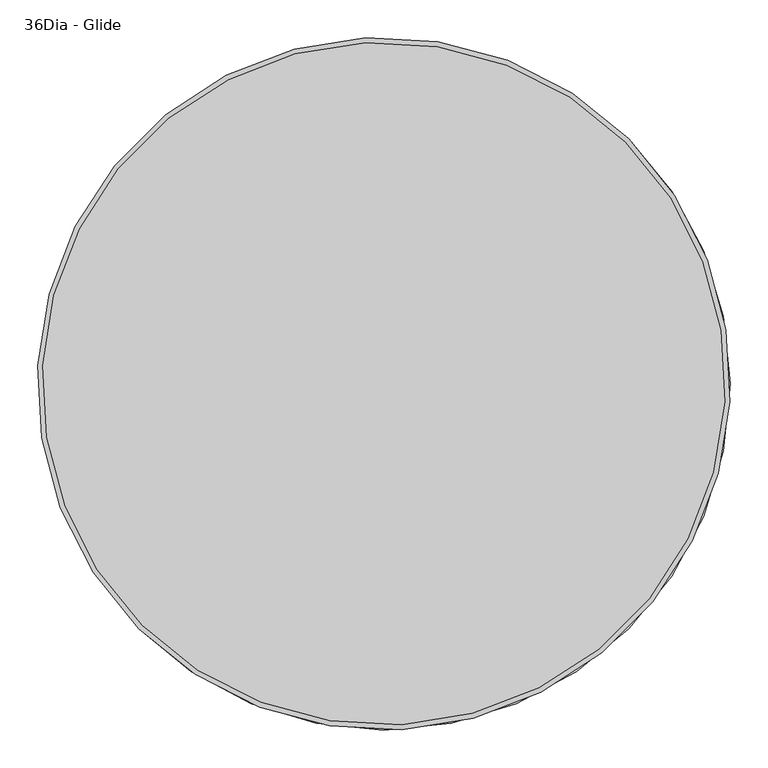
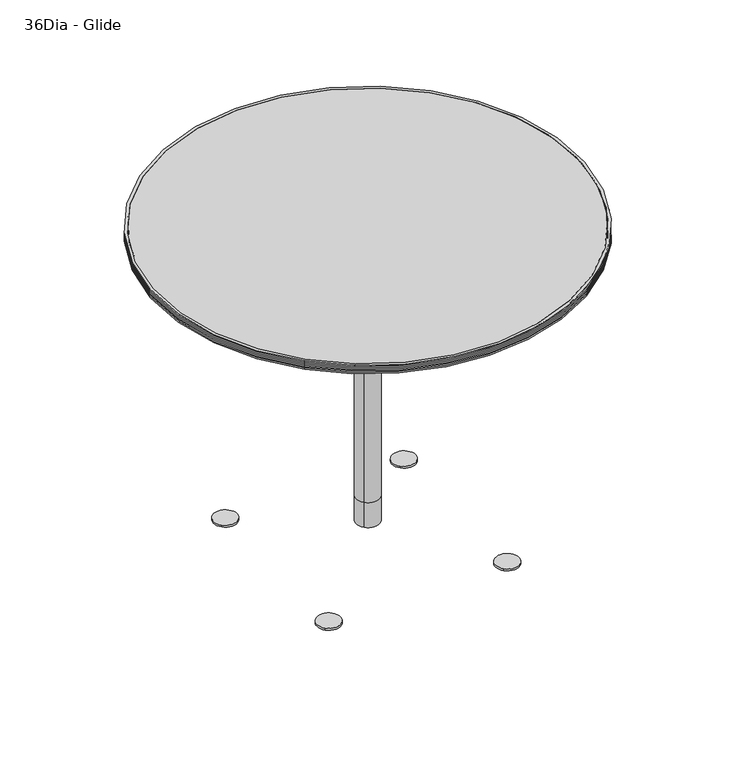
"""IFC4 building model written with IfcOpenShell, lengths in millimetres: furniture geometry, Coalesse_AM_Table_Conference_Ballet_Table_Round : 36Dia - Glide."""

import ifcopenshell
import ifcopenshell.guid

model = None  # the IFC model being written
_history = None  # IfcOwnerHistory: only IFC2X3 demands one
_inside = {}  # id of a spatial element -> (the spatial element, [elements in it])
_under = {}  # id of a project, library or spatial element -> (it, [spatial elements below it])
_declared = {}  # id of a project -> (the project, [libraries it declares])
_typed = {}  # id of a type object -> (the type object, [elements of that type])
_made_of = {}  # id of a material, layer set ... -> (it, [elements and type objects made of it])


def new_model(schema):
    """Start an empty IFC model of exactly this schema.

    Asked for "IFC4X3", IfcOpenShell would pick the latest addendum, in which some entities
    have other attributes; the version numbers below select the first issue.
    IFC2X3 requires an IfcOwnerHistory on every rooted entity: one is made here for all.
    """
    global model, _history
    if schema == "IFC4X3":
        model = ifcopenshell.file(schema_version=(4, 3, 0, 0))
    else:
        model = ifcopenshell.file(schema=schema)
    _inside.clear()
    _under.clear()
    _declared.clear()
    _typed.clear()
    _made_of.clear()
    _history = None
    if model.schema == "IFC2X3":
        org = make("IfcOrganization", Name="unknown")
        user = make(
            "IfcPersonAndOrganization",
            ThePerson=make("IfcPerson", FamilyName="unknown"),
            TheOrganization=org,
        )
        app = make(
            "IfcApplication",
            ApplicationDeveloper=org,
            Version="unknown",
            ApplicationFullName="unknown",
            ApplicationIdentifier="unknown",
        )
        _history = make(
            "IfcOwnerHistory",
            OwningUser=user,
            OwningApplication=app,
            ChangeAction="ADDED",
            CreationDate=0,
        )
    return model


def make(cls, **values):
    """One entity of the class cls with the attributes given. An attribute that is None is left unset."""
    return model.create_entity(
        cls, **{name: value for name, value in values.items() if value is not None}
    )


def rooted(cls, **values):
    """An entity with a GlobalId (a new one), such as an element, a storey or a relation."""
    return make(cls, GlobalId=ifcopenshell.guid.new(), OwnerHistory=_history, **values)


def si_unit(unit_type, name, prefix=None):
    """IfcSIUnit, for example si_unit("LENGTHUNIT", "METRE", prefix="MILLI")."""
    return make("IfcSIUnit", UnitType=unit_type, Prefix=prefix, Name=name)


def assignment(units):
    """IfcUnitAssignment: the units of a project."""
    return None if units is None else make("IfcUnitAssignment", Units=units)


def point(xyz):
    """IfcCartesianPoint."""
    return None if xyz is None else make("IfcCartesianPoint", Coordinates=xyz)


def direction(xyz):
    """IfcDirection."""
    return None if xyz is None else make("IfcDirection", DirectionRatios=xyz)


def frame(location, z_axis=None, x_axis=None):
    """IfcAxis2Placement3D, a coordinate frame: its origin and axes. An axis left out is left unset."""
    return make(
        "IfcAxis2Placement3D",
        Location=point(location),
        Axis=direction(z_axis),
        RefDirection=direction(x_axis),
    )


def frame_2d(location, x_axis=None):
    """IfcAxis2Placement2D, a coordinate frame in the plane: its origin and x axis."""
    return make(
        "IfcAxis2Placement2D", Location=point(location), RefDirection=direction(x_axis)
    )


def origin():
    """The frame at (0, 0, 0) with its axes left unset."""
    return frame((0.0, 0.0, 0.0))


def origin_with_axes():
    """The frame at (0, 0, 0) with the z axis (0, 0, 1) and the x axis (1, 0, 0) written out."""
    return frame((0.0, 0.0, 0.0), z_axis=(0.0, 0.0, 1.0), x_axis=(1.0, 0.0, 0.0))


def origin_2d():
    """The frame at (0, 0) in the plane with its x axis left unset."""
    return frame_2d((0.0, 0.0))


def place(relative_to, where):
    """IfcLocalPlacement: puts the frame where relative to a parent placement (None: the world)."""
    return make(
        "IfcLocalPlacement", PlacementRelTo=relative_to, RelativePlacement=where
    )


def context(
    kind, dimensions, precision=None, world=None, true_north=None, identifier=None
):
    """IfcGeometricRepresentationContext, for example the 3D "Model" context."""
    return make(
        "IfcGeometricRepresentationContext",
        ContextIdentifier=identifier,
        ContextType=kind,
        CoordinateSpaceDimension=dimensions,
        Precision=precision,
        WorldCoordinateSystem=world,
        TrueNorth=true_north,
    )


def project(units=None, contexts=None):
    """IfcProject with its units and contexts."""
    return rooted(
        "IfcProject",
        Name="project",
        RepresentationContexts=contexts,
        UnitsInContext=assignment(units),
    )


def spatial(cls, under=None, at=None, **own):
    """A site, building, storey or space (cls), placed at a placement, below another one or the project."""
    s = rooted(cls, ObjectPlacement=at, **own)
    if under is not None:
        _under.setdefault(under.id(), (under, []))[1].append(s)
    return s


def polyline(points):
    """IfcPolyline through the points."""
    return make("IfcPolyline", Points=[point(p) for p in points])


def circle_curve(where, radius):
    """IfcCircle in the frame where."""
    return make("IfcCircle", Position=where, Radius=radius)


def trimmed(basis, trim1, trim2, sense, master):
    """IfcTrimmedCurve: the piece of a basis curve between two trims."""
    return make(
        "IfcTrimmedCurve",
        BasisCurve=basis,
        Trim1=trim1,
        Trim2=trim2,
        SenseAgreement=sense,
        MasterRepresentation=master,
    )


def segment(curve, same_sense, transition):
    """IfcCompositeCurveSegment."""
    return make(
        "IfcCompositeCurveSegment",
        Transition=transition,
        SameSense=same_sense,
        ParentCurve=curve,
    )


def composite_curve(segments, self_intersect=None):
    """IfcCompositeCurve: segments joined end to end."""
    return make("IfcCompositeCurve", Segments=segments, SelfIntersect=self_intersect)


def outline(outer, holes=None, kind="AREA"):
    """IfcArbitraryClosedProfileDef: a profile drawn as a closed curve; with holes, ...WithVoids."""
    if holes is None:
        return make("IfcArbitraryClosedProfileDef", ProfileType=kind, OuterCurve=outer)
    return make(
        "IfcArbitraryProfileDefWithVoids",
        ProfileType=kind,
        OuterCurve=outer,
        InnerCurves=holes,
    )


def extrude(swept, where, along, depth):
    """IfcExtrudedAreaSolid: the profile swept, set in the frame where, extruded along a direction by depth."""
    return make(
        "IfcExtrudedAreaSolid",
        SweptArea=swept,
        Position=where,
        ExtrudedDirection=direction(along),
        Depth=depth,
    )


def shape(context_of_items, identifier, shape_type, items):
    """IfcShapeRepresentation: the items that make up one representation, for example the "Body"."""
    return make(
        "IfcShapeRepresentation",
        ContextOfItems=context_of_items,
        RepresentationIdentifier=identifier,
        RepresentationType=shape_type,
        Items=items,
    )


def source(mapping_origin, context_of_items, identifier, shape_type, items):
    """IfcRepresentationMap: a shape defined once, which mapped items show again and again."""
    return make(
        "IfcRepresentationMap",
        MappingOrigin=mapping_origin,
        MappedRepresentation=shape(context_of_items, identifier, shape_type, items),
    )


def transform(
    local_origin,
    x_axis=None,
    y_axis=None,
    z_axis=None,
    scale=None,
    scale2=None,
    scale3=None,
    uniform=True,
):
    """IfcCartesianTransformationOperator3D, or its non-uniform kind. x_axis, y_axis, z_axis: its Axis1, 2, 3."""
    if uniform:
        return make(
            "IfcCartesianTransformationOperator3D",
            Axis1=direction(x_axis),
            Axis2=direction(y_axis),
            LocalOrigin=point(local_origin),
            Scale=scale,
            Axis3=direction(z_axis),
        )
    return make(
        "IfcCartesianTransformationOperator3DnonUniform",
        Axis1=direction(x_axis),
        Axis2=direction(y_axis),
        LocalOrigin=point(local_origin),
        Scale=scale,
        Axis3=direction(z_axis),
        Scale2=scale2,
        Scale3=scale3,
    )


def mapped(mapping_source, mapping_target):
    """IfcMappedItem: shows the shape of a source again, moved by a transform."""
    return make(
        "IfcMappedItem", MappingSource=mapping_source, MappingTarget=mapping_target
    )


def made_of(thing, what):
    """Note that an element or type object is made of a material, layer set ...; save() writes the relation."""
    if what is not None:
        _made_of.setdefault(what.id(), (what, []))[1].append(thing)
    return thing


def element(
    cls,
    number,
    at=None,
    inside=None,
    cuts=None,
    type_object=None,
    material=None,
    context=None,
    identifier="Body",
    shape_type=None,
    held_by="IfcProductDefinitionShape",
    body=None,
    shapes=None,
    **own,
):
    """One element of the class cls, such as IfcWall. Its Tag is "e" and its number.

    at: its placement. inside: the storey or other place that contains it. cuts: it is an
    opening in that element (IfcRelVoidsElement). A single representation is given by context,
    identifier, shape_type and body (its items); several are given by shapes. held_by: the class
    of the entity that holds the representations. save() writes the other relations.
    """
    e = rooted(cls, Tag="e%d" % number, ObjectPlacement=at, **own)
    if body is not None:
        shapes = [shape(context, identifier, shape_type, body)]
    if shapes is not None:
        e.Representation = make(held_by, Representations=shapes)
    if inside is not None:
        _inside.setdefault(inside.id(), (inside, []))[1].append(e)
    if cuts is not None:
        rooted(
            "IfcRelVoidsElement", RelatingBuildingElement=cuts, RelatedOpeningElement=e
        )
    if type_object is not None:
        _typed.setdefault(type_object.id(), (type_object, []))[1].append(e)
    return made_of(e, material)


def aggregate(whole, parts):
    """IfcRelAggregates: a whole, such as a stair, and the parts it consists of."""
    return rooted("IfcRelAggregates", RelatingObject=whole, RelatedObjects=parts)


def save(model, path):
    """Write the relations noted so far, then the file.

    IfcRelAggregates (storeys below a building ...), IfcRelContainedInSpatialStructure (elements
    in a storey), IfcRelDefinesByType, IfcRelAssociatesMaterial and IfcRelDeclares: one each for
    every whole, place, type object, material and project.
    """
    for whole, parts in _under.values():
        aggregate(whole, parts)
    for where, things in _inside.values():
        rooted(
            "IfcRelContainedInSpatialStructure",
            RelatedElements=things,
            RelatingStructure=where,
        )
    for kind, things in _typed.values():
        rooted("IfcRelDefinesByType", RelatedObjects=things, RelatingType=kind)
    for what, things in _made_of.values():
        rooted("IfcRelAssociatesMaterial", RelatedObjects=things, RelatingMaterial=what)
    for by, libraries in _declared.values():
        rooted("IfcRelDeclares", RelatingContext=by, RelatedDefinitions=libraries)
    model.write(path)


def plane_surface(at):
    """IfcPlane: the flat surface through the origin of the frame at, square to its z axis."""
    return make("IfcPlane", Position=at)


def cylinder_surface(at, radius):
    """IfcCylindricalSurface: all points at the distance radius from the z axis of the frame at."""
    return make("IfcCylindricalSurface", Position=at, Radius=radius)


def revolved_surface(curve, axis_point, axis_direction):
    """IfcSurfaceOfRevolution: the curve turned about the line through axis_point along axis_direction."""
    return make(
        "IfcSurfaceOfRevolution",
        SweptCurve=make("IfcArbitraryOpenProfileDef", ProfileType="CURVE", Curve=curve),
        AxisPosition=make("IfcAxis1Placement", Location=point(axis_point), Axis=direction(axis_direction)),
    )


def advanced_brep(points, edges, surfaces, faces):
    """IfcAdvancedBrep: a solid bounded by faces that lie on surfaces and meet in shared edges.

    An edge is (start, end): straight between two places in points (the first is 0);
    or (start, end, curve); or (start, end, curve, False) where it runs against its curve.
    A face is (place in surfaces, loops), or (place, loops, False) where it looks against
    its surface's normal. A loop lists edges by number (the first is 1), with a minus sign
    where the edge is run from its end to its start. The first loop is the outer one.
    """
    corners = [point(p) for p in points]
    vertices = [make("IfcVertexPoint", VertexGeometry=c) for c in corners]
    made = []
    for start, end, *more in edges:
        made.append(
            make(
                "IfcEdgeCurve",
                EdgeStart=vertices[start],
                EdgeEnd=vertices[end],
                EdgeGeometry=more[0] if more else make("IfcPolyline", Points=[corners[start], corners[end]]),
                SameSense=more[1] if len(more) > 1 else True,
            )
        )
    hull = []
    for where, loops, *sense in faces:
        bounds = []
        for j, loop in enumerate(loops):
            ring = [make("IfcOrientedEdge", EdgeElement=made[abs(k) - 1], Orientation=k > 0) for k in loop]
            bounds.append(
                make(
                    "IfcFaceOuterBound" if j == 0 else "IfcFaceBound",
                    Bound=make("IfcEdgeLoop", EdgeList=ring),
                    Orientation=True,
                )
            )
        hull.append(make("IfcAdvancedFace", Bounds=bounds, FaceSurface=surfaces[where], SameSense=sense[0] if sense else True))
    return make("IfcAdvancedBrep", Outer=make("IfcClosedShell", CfsFaces=hull))


def furniture_36dia_glide_d5f281bf(model_context):
    return source(origin(), model_context, "Body", "SolidModel", [
        advanced_brep(
        [(-81.1409418, 49.3084633, 657.9865814), (-82.3248918, -51.014078, 657.9865814), (-51.0893198, -82.2496499, 657.9865814), (50.5881651, -81.8989789, 657.9865814), (81.7629451, -50.7241989, 657.9865814), (81.1309866, 49.8201728, 657.9865814), (49.871233, 81.0799264, 657.9865814), (-49.5692956, 80.8801095, 657.9865814), (-81.1409418, 49.3084633, 635.3095602), (-49.5692956, 80.8801095, 635.3095602), (49.871233, 81.0799264, 635.3095602), (81.1309866, 49.8201728, 635.3095602), (81.7629451, -50.7241989, 635.3095602), (50.5881651, -81.8989789, 635.3095602), (-51.0893198, -82.2496499, 635.3095602), (-82.3248918, -51.014078, 635.3095602), (-37.2834365, 26.9246599, 635.3095602), (-37.2834365, -26.9568769, 635.3095602), (-26.8661847, -37.3741286, 635.3095602), (27.015352, -37.3741286, 635.3095602), (38.9313594, -25.4581212, 635.3095602), (38.9313594, 25.4259042, 635.3095602), (27.015352, 37.3419116, 635.3095602), (-26.8661847, 37.3419116, 635.3095602), (-37.2834365, 26.9246599, 607.6784119), (-26.8661847, 37.3419116, 607.6784119), (27.015352, 37.3419116, 607.6784119), (38.9313594, 25.4259042, 607.6784119), (38.9313594, -25.4581212, 607.6784119), (27.015352, -37.3741286, 607.6784119), (-26.8661847, -37.3741286, 607.6784119), (-37.2834365, -26.9568769, 607.6784119)],
        [
            (0, 1, circle_curve(frame((-153.9959305, 0.0, 657.9865814), z_axis=(0.0, 0.0, -1.0), x_axis=(1.0, 0.0, 0.0)), 87.9725749)),
            (1, 2),
            (2, 3, circle_curve(frame((0.0, -154.7295322, 657.9865814), z_axis=(0.0, 0.0, -1.0), x_axis=(1.0, 0.0, 0.0)), 88.6761069)),
            (3, 4),
            (4, 5, circle_curve(frame((153.3620811, 0.0, 657.9865814), z_axis=(0.0, 0.0, -1.0), x_axis=(1.0, 0.0, 0.0)), 87.7461145)),
            (5, 6),
            (6, 7, circle_curve(frame((0.0, 156.1108358, 657.9865814), z_axis=(0.0, 0.0, -1.0), x_axis=(1.0, 0.0, 0.0)), 90.0931587)),
            (7, 0),
            (8, 9),
            (9, 10, circle_curve(frame((0.0, 156.1108358, 635.3095602), z_axis=(0.0, 0.0, 1.0), x_axis=(1.0, 0.0, 0.0)), 90.0931587)),
            (10, 11),
            (11, 12, circle_curve(frame((153.3620811, 0.0, 635.3095602), z_axis=(0.0, 0.0, 1.0), x_axis=(1.0, 0.0, 0.0)), 87.7461145)),
            (12, 13),
            (13, 14, circle_curve(frame((0.0, -154.7295322, 635.3095602), z_axis=(0.0, 0.0, 1.0), x_axis=(1.0, 0.0, 0.0)), 88.6761069)),
            (14, 15),
            (15, 8, circle_curve(frame((-153.9959305, 0.0, 635.3095602), z_axis=(0.0, 0.0, 1.0), x_axis=(1.0, 0.0, 0.0)), 87.9725749)),
            (16, 17, circle_curve(frame((-10.3426681, -0.0161085, 635.3095602), z_axis=(0.0, 0.0, 1.0), x_axis=(1.0, 0.0, 0.0)), 38.1)),
            (17, 18),
            (18, 19, circle_curve(frame((0.0745836, -10.4333602, 635.3095602), z_axis=(0.0, 0.0, 1.0), x_axis=(1.0, 0.0, 0.0)), 38.1)),
            (19, 20),
            (20, 21, circle_curve(frame((13.4893466, -0.0161085, 635.3095602), z_axis=(0.0, 0.0, 1.0), x_axis=(1.0, 0.0, 0.0)), 35.9804395)),
            (21, 22),
            (22, 23, circle_curve(frame((0.0745836, 10.4011432, 635.3095602), z_axis=(0.0, 0.0, 1.0), x_axis=(1.0, 0.0, 0.0)), 38.1)),
            (23, 16),
            (0, 8),
            (15, 1),
            (14, 2),
            (13, 3),
            (12, 4),
            (11, 5),
            (10, 6),
            (9, 7),
            (24, 25),
            (25, 26, circle_curve(frame((0.0745836, 10.4011432, 607.6784119), z_axis=(0.0, 0.0, -1.0), x_axis=(1.0, 0.0, 0.0)), 38.1)),
            (26, 27),
            (27, 28, circle_curve(frame((13.4893466, -0.0161085, 607.6784119), z_axis=(0.0, 0.0, -1.0), x_axis=(1.0, 0.0, 0.0)), 35.9804395)),
            (28, 29),
            (29, 30, circle_curve(frame((0.0745836, -10.4333602, 607.6784119), z_axis=(0.0, 0.0, -1.0), x_axis=(1.0, 0.0, 0.0)), 38.1)),
            (30, 31),
            (31, 24, circle_curve(frame((-10.3426681, -0.0161085, 607.6784119), z_axis=(0.0, 0.0, -1.0), x_axis=(1.0, 0.0, 0.0)), 38.1)),
            (31, 17),
            (16, 24),
            (30, 18),
            (29, 19),
            (28, 20),
            (27, 21),
            (26, 22),
            (25, 23),
        ],
        [
            plane_surface(frame((-66.0233556, 0.0, 657.9865814), z_axis=(0.0, 0.0, 1.0), x_axis=(0.0, -1.0, 0.0))),
            plane_surface(frame((-66.0233556, 0.0, 635.3095602), z_axis=(0.0, 0.0, -1.0), x_axis=(0.0, 1.0, 0.0))),
            revolved_surface(polyline([(-66.02335559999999, 0.0, 635.3095602), (-66.02335559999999, 0.0, 657.9865814)]), (-153.9959305, 0.0, 635.3095602), (0.0, 0.0, -1.0)),
            plane_surface(frame((-82.3248918, -51.014078, 657.9865814), z_axis=(-0.7071067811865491, -0.7071067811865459, 0.0), x_axis=(0.0, 0.0, -1.0))),
            revolved_surface(polyline([(88.6761069, -154.7295322, 635.3095602), (88.6761069, -154.7295322, 657.9865814)]), (0.0, -154.7295322, 635.3095602), (0.0, 0.0, -1.0)),
            plane_surface(frame((50.5881651, -81.8989789, 657.9865814), z_axis=(0.7071067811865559, -0.7071067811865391, 0.0), x_axis=(0.0, 0.0, -1.0))),
            revolved_surface(polyline([(241.10819560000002, 0.0, 635.3095602), (241.10819560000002, 0.0, 657.9865814)]), (153.3620811, 0.0, 635.3095602), (0.0, 0.0, -1.0)),
            plane_surface(frame((81.1309866, 49.8201728, 657.9865814), z_axis=(0.7071067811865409, 0.7071067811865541, 0.0), x_axis=(0.0, 0.0, -1.0))),
            revolved_surface(polyline([(90.0931587, 156.1108358, 635.3095602), (90.0931587, 156.1108358, 657.9865814)]), (0.0, 156.1108358, 635.3095602), (0.0, 0.0, -1.0)),
            plane_surface(frame((-49.5692956, 80.8801095, 657.9865814), z_axis=(-0.7071067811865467, 0.7071067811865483, 0.0), x_axis=(0.0, 0.0, -1.0))),
            plane_surface(frame((27.7573319, -0.0161085, 607.6784119), z_axis=(0.0, 0.0, -1.0), x_axis=(0.0, -1.0, 0.0))),
            cylinder_surface(frame((-10.3426681, -0.0161085, 607.6784119), z_axis=(0.0, 0.0, 1.0), x_axis=(1.0, 0.0, 0.0)), 38.1),
            plane_surface(frame((-37.2834365, -26.9568769, 657.9865814), z_axis=(-0.7071067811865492, -0.7071067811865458, 0.0), x_axis=(0.0, 0.0, -1.0))),
            cylinder_surface(frame((0.0745836, -10.4333602, 607.6784119), z_axis=(0.0, 0.0, 1.0), x_axis=(1.0, 0.0, 0.0)), 38.1),
            plane_surface(frame((27.015352, -37.3741286, 657.9865814), z_axis=(0.707106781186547, -0.707106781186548, 0.0), x_axis=(0.0, 0.0, -1.0))),
            cylinder_surface(frame((13.4893466, -0.0161085, 607.6784119), z_axis=(0.0, 0.0, 1.0), x_axis=(1.0, 0.0, 0.0)), 35.9804395),
            plane_surface(frame((38.9313594, 25.4259042, 657.9865814), z_axis=(0.7071067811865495, 0.7071067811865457, 0.0), x_axis=(0.0, 0.0, -1.0))),
            cylinder_surface(frame((0.0745836, 10.4011432, 607.6784119), z_axis=(0.0, 0.0, 1.0), x_axis=(1.0, 0.0, 0.0)), 38.1),
            plane_surface(frame((-26.8661847, 37.3419116, 657.9865814), z_axis=(-0.707106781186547, 0.7071067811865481, 0.0), x_axis=(0.0, 0.0, -1.0))),
        ],
        [
            (0, [[1, 2, 3, 4, 5, 6, 7, 8]]),
            (1, [[9, 10, 11, 12, 13, 14, 15, 16], [17, 18, 19, 20, 21, 22, 23, 24]]),
            (2, [[-1, 25, -16, 26]]),
            (3, [[-2, -26, -15, 27]]),
            (4, [[-3, -27, -14, 28]]),
            (5, [[-4, -28, -13, 29]]),
            (6, [[-5, -29, -12, 30]]),
            (7, [[-6, -30, -11, 31]]),
            (8, [[-7, -31, -10, 32]]),
            (9, [[-8, -32, -9, -25]]),
            (10, [[33, 34, 35, 36, 37, 38, 39, 40]]),
            (11, [[-40, 41, -17, 42]]),
            (12, [[-39, 43, -18, -41]]),
            (13, [[-38, 44, -19, -43]]),
            (14, [[-37, 45, -20, -44]]),
            (15, [[-36, 46, -21, -45]]),
            (16, [[-35, 47, -22, -46]]),
            (17, [[-34, 48, -23, -47]]),
            (18, [[-33, -42, -24, -48]]),
        ],
    ),
        extrude(outline(composite_curve([segment(trimmed(circle_curve(frame_2d((1.04e-05, -1.04e-05)), 25.3999999), [point((-17.9605018, -17.9605225))], [point((17.9605225, 17.9605018))], False, "CARTESIAN"), True, "CONTINUOUS"), segment(trimmed(circle_curve(frame_2d((1.04e-05, -1.04e-05)), 25.3999999), [point((17.9605225, 17.9605018))], [point((-17.9605018, -17.9605225))], False, "CARTESIAN"), True, "CONTINUOUS")], self_intersect=False)), frame((0.0, 0.0, 107.857915), z_axis=(0.0, 0.0, 1.0), x_axis=(1.0, 0.0, 0.0)), (0.0, 0.0, 1.0), 499.8204968),
        advanced_brep(
        [(-318.7990923, -318.7990923, 723.9), (318.7990923, 318.7990923, 723.9), (318.7990923, 318.7990923, 704.85), (-318.7990923, -318.7990923, 704.85), (-323.4194013, -323.4194013, 720.7467693), (323.4194013, 323.4194013, 720.7467693), (323.4194013, 323.4194013, 723.9), (-323.4194013, -323.4194013, 723.9), (-321.1902454, -321.1902454, 719.140489), (321.1902454, 321.1902454, 719.140489), (-323.3975457, -323.3975457, 717.5499574), (323.3975457, 323.3975457, 717.5499574), (-321.1872768, -321.1872768, 715.9572867), (321.1872768, 321.1872768, 715.9572867), (-323.4153307, -323.4153307, 714.3518005), (323.4153307, 323.4153307, 714.3518005), (-321.1853731, -321.1853731, 712.8136693), (321.1853731, 321.1853731, 712.8136693), (-323.4314025, -323.4314025, 711.2246637), (323.4314025, 323.4314025, 711.2246637), (-321.1899902, -321.1899902, 709.6095518), (321.1899902, 321.1899902, 709.6095518), (-323.4314025, -323.4314025, 708.0238127), (323.4314025, 323.4314025, 708.0238127), (-323.4314025, -323.4314025, 704.85), (323.4314025, 323.4314025, 704.85)],
        [
            (0, 1, circle_curve(frame((0.0, 0.0, 723.9), z_axis=(0.0, 0.0, 1.0), x_axis=(0.707106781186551, 0.707106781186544, 0.0)), 450.85)),
            (1, 2),
            (2, 3, circle_curve(frame((0.0, 0.0, 704.85), z_axis=(0.0, 0.0, -1.0), x_axis=(0.707106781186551, 0.707106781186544, 0.0)), 450.85)),
            (3, 0),
            (4, 5, circle_curve(frame((0.0, 0.0, 720.7467693), z_axis=(0.0, 0.0, 1.0), x_axis=(0.707106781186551, 0.707106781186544, 0.0)), 457.3841036)),
            (5, 6),
            (6, 7, circle_curve(frame((0.0, 0.0, 723.9), z_axis=(0.0, 0.0, -1.0), x_axis=(0.707106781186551, 0.707106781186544, 0.0)), 457.3841036)),
            (7, 4),
            (8, 9, circle_curve(frame((0.0, 0.0, 719.140489), z_axis=(0.0, 0.0, 1.0), x_axis=(0.707106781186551, 0.707106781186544, 0.0)), 454.2316012)),
            (9, 5),
            (4, 8),
            (10, 11, circle_curve(frame((0.0, 0.0, 717.5499574), z_axis=(0.0, 0.0, 1.0), x_axis=(0.707106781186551, 0.707106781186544, 0.0)), 457.3531952)),
            (11, 9),
            (8, 10),
            (12, 13, circle_curve(frame((0.0, 0.0, 715.9572867), z_axis=(0.0, 0.0, 1.0), x_axis=(0.707106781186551, 0.707106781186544, 0.0)), 454.2274029)),
            (13, 11),
            (10, 12),
            (14, 15, circle_curve(frame((0.0, 0.0, 714.3518005), z_axis=(0.0, 0.0, 1.0), x_axis=(0.707106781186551, 0.707106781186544, 0.0)), 457.378347)),
            (15, 13),
            (12, 14),
            (16, 17, circle_curve(frame((0.0, 0.0, 712.8136693), z_axis=(0.0, 0.0, 1.0), x_axis=(0.707106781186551, 0.707106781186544, 0.0)), 454.2247106)),
            (17, 15),
            (14, 16),
            (18, 19, circle_curve(frame((0.0, 0.0, 711.2246637), z_axis=(0.0, 0.0, 1.0), x_axis=(0.707106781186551, 0.707106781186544, 0.0)), 457.4010759)),
            (19, 17),
            (16, 18),
            (20, 21, circle_curve(frame((0.0, 0.0, 709.6095518), z_axis=(0.0, 0.0, 1.0), x_axis=(0.707106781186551, 0.707106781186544, 0.0)), 454.2312403)),
            (21, 19),
            (18, 20),
            (22, 23, circle_curve(frame((0.0, 0.0, 708.0238127), z_axis=(0.0, 0.0, 1.0), x_axis=(0.707106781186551, 0.707106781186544, 0.0)), 457.4010759)),
            (23, 21),
            (20, 22),
            (24, 25, circle_curve(frame((0.0, 0.0, 704.85), z_axis=(0.0, 0.0, 1.0), x_axis=(0.707106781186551, 0.707106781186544, 0.0)), 457.4010759)),
            (25, 23),
            (22, 24),
            (1, 0, circle_curve(frame((0.0, 0.0, 723.9), z_axis=(0.0, 0.0, 1.0), x_axis=(-0.7071067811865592, -0.7071067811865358, 0.0)), 450.85)),
            (3, 2, circle_curve(frame((0.0, 0.0, 704.85), z_axis=(0.0, 0.0, -1.0), x_axis=(-0.7071067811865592, -0.7071067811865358, 0.0)), 450.85)),
            (6, 7, circle_curve(frame((0.0, 0.0, 723.9), z_axis=(0.0, 0.0, 1.0), x_axis=(-0.7071067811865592, -0.7071067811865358, 0.0)), 457.3841036)),
            (5, 4, circle_curve(frame((0.0, 0.0, 720.7467693), z_axis=(0.0, 0.0, 1.0), x_axis=(-0.7071067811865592, -0.7071067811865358, 0.0)), 457.3841036)),
            (9, 8, circle_curve(frame((0.0, 0.0, 719.140489), z_axis=(0.0, 0.0, 1.0), x_axis=(-0.7071067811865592, -0.7071067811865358, 0.0)), 454.2316012)),
            (11, 10, circle_curve(frame((0.0, 0.0, 717.5499574), z_axis=(0.0, 0.0, 1.0), x_axis=(-0.7071067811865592, -0.7071067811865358, 0.0)), 457.3531952)),
            (13, 12, circle_curve(frame((0.0, 0.0, 715.9572867), z_axis=(0.0, 0.0, 1.0), x_axis=(-0.7071067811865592, -0.7071067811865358, 0.0)), 454.2274029)),
            (15, 14, circle_curve(frame((0.0, 0.0, 714.3518005), z_axis=(0.0, 0.0, 1.0), x_axis=(-0.7071067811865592, -0.7071067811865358, 0.0)), 457.378347)),
            (17, 16, circle_curve(frame((0.0, 0.0, 712.8136693), z_axis=(0.0, 0.0, 1.0), x_axis=(-0.7071067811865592, -0.7071067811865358, 0.0)), 454.2247106)),
            (19, 18, circle_curve(frame((0.0, 0.0, 711.2246637), z_axis=(0.0, 0.0, 1.0), x_axis=(-0.7071067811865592, -0.7071067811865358, 0.0)), 457.4010759)),
            (21, 20, circle_curve(frame((0.0, 0.0, 709.6095518), z_axis=(0.0, 0.0, 1.0), x_axis=(-0.7071067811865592, -0.7071067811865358, 0.0)), 454.2312403)),
            (23, 22, circle_curve(frame((0.0, 0.0, 708.0238127), z_axis=(0.0, 0.0, 1.0), x_axis=(-0.7071067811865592, -0.7071067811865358, 0.0)), 457.4010759)),
            (25, 24, circle_curve(frame((0.0, 0.0, 704.85), z_axis=(0.0, 0.0, 1.0), x_axis=(-0.7071067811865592, -0.7071067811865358, 0.0)), 457.4010759)),
        ],
        [
            revolved_surface(polyline([(318.7990922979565, 318.7990922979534, 704.85), (318.7990922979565, 318.7990922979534, 723.9)]), (0.0, 0.0, 723.9), (0.0, 0.0, -1.0)),
            cylinder_surface(frame((0.0, 0.0, 723.9), z_axis=(0.0, 0.0, -1.0), x_axis=(0.707106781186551, 0.707106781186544, 0.0)), 457.3841036),
            revolved_surface(polyline([(323.4194013, 323.4194013, 720.7467693), (321.1902454, 321.1902454, 719.140489)]), (0.0, 0.0, 723.9), (0.0, 0.0, -1.0)),
            revolved_surface(polyline([(321.1902454, 321.1902454, 719.140489), (323.3975457, 323.3975457, 717.5499574)]), (0.0, 0.0, 723.9), (0.0, 0.0, -1.0)),
            revolved_surface(polyline([(323.3975457, 323.3975457, 717.5499574), (321.1872768, 321.1872768, 715.9572867)]), (0.0, 0.0, 723.9), (0.0, 0.0, -1.0)),
            revolved_surface(polyline([(321.1872768, 321.1872768, 715.9572867), (323.4153307, 323.4153307, 714.3518005)]), (0.0, 0.0, 723.9), (0.0, 0.0, -1.0)),
            revolved_surface(polyline([(323.4153307, 323.4153307, 714.3518005), (321.1853731, 321.1853731, 712.8136693)]), (0.0, 0.0, 723.9), (0.0, 0.0, -1.0)),
            revolved_surface(polyline([(321.1853731, 321.1853731, 712.8136693), (323.4314025, 323.4314025, 711.2246637)]), (0.0, 0.0, 723.9), (0.0, 0.0, -1.0)),
            revolved_surface(polyline([(323.4314025, 323.4314025, 711.2246637), (321.1899902, 321.1899902, 709.6095518)]), (0.0, 0.0, 723.9), (0.0, 0.0, -1.0)),
            revolved_surface(polyline([(321.1899902, 321.1899902, 709.6095518), (323.4314025, 323.4314025, 708.0238127)]), (0.0, 0.0, 723.9), (0.0, 0.0, -1.0)),
            cylinder_surface(frame((0.0, 0.0, 723.9), z_axis=(0.0, 0.0, -1.0), x_axis=(0.707106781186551, 0.707106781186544, 0.0)), 457.4010759),
            revolved_surface(polyline([(-318.79909229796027, -318.7990922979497, 704.85), (-318.79909229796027, -318.7990922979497, 723.9)]), (0.0, 0.0, 723.9), (0.0, 0.0, -1.0)),
            plane_surface(frame((0.0, 0.0, 723.9), z_axis=(0.0, 0.0, 1.0), x_axis=(-0.7071067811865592, -0.7071067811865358, 0.0))),
            cylinder_surface(frame((0.0, 0.0, 723.9), z_axis=(0.0, 0.0, -1.0), x_axis=(-0.7071067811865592, -0.7071067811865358, 0.0)), 457.3841036),
            revolved_surface(polyline([(-323.4194013, -323.4194013, 720.7467693), (-321.1902454, -321.1902454, 719.140489)]), (0.0, 0.0, 723.9), (0.0, 0.0, -1.0)),
            revolved_surface(polyline([(-321.1902454, -321.1902454, 719.140489), (-323.3975457, -323.3975457, 717.5499574)]), (0.0, 0.0, 723.9), (0.0, 0.0, -1.0)),
            revolved_surface(polyline([(-323.3975457, -323.3975457, 717.5499574), (-321.1872768, -321.1872768, 715.9572867)]), (0.0, 0.0, 723.9), (0.0, 0.0, -1.0)),
            revolved_surface(polyline([(-321.1872768, -321.1872768, 715.9572867), (-323.4153307, -323.4153307, 714.3518005)]), (0.0, 0.0, 723.9), (0.0, 0.0, -1.0)),
            revolved_surface(polyline([(-323.4153307, -323.4153307, 714.3518005), (-321.1853731, -321.1853731, 712.8136693)]), (0.0, 0.0, 723.9), (0.0, 0.0, -1.0)),
            revolved_surface(polyline([(-321.1853731, -321.1853731, 712.8136693), (-323.4314025, -323.4314025, 711.2246637)]), (0.0, 0.0, 723.9), (0.0, 0.0, -1.0)),
            revolved_surface(polyline([(-323.4314025, -323.4314025, 711.2246637), (-321.1899902, -321.1899902, 709.6095518)]), (0.0, 0.0, 723.9), (0.0, 0.0, -1.0)),
            revolved_surface(polyline([(-321.1899902, -321.1899902, 709.6095518), (-323.4314025, -323.4314025, 708.0238127)]), (0.0, 0.0, 723.9), (0.0, 0.0, -1.0)),
            cylinder_surface(frame((0.0, 0.0, 723.9), z_axis=(0.0, 0.0, -1.0), x_axis=(-0.7071067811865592, -0.7071067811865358, 0.0)), 457.4010759),
            plane_surface(frame((0.0, 0.0, 704.85), z_axis=(0.0, 0.0, -1.0), x_axis=(-0.7071067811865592, -0.7071067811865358, 0.0))),
        ],
        [
            (0, [[1, 2, 3, 4]]),
            (1, [[5, 6, 7, 8]]),
            (2, [[9, 10, -5, 11]]),
            (3, [[12, 13, -9, 14]]),
            (4, [[15, 16, -12, 17]]),
            (5, [[18, 19, -15, 20]]),
            (6, [[21, 22, -18, 23]]),
            (7, [[24, 25, -21, 26]]),
            (8, [[27, 28, -24, 29]]),
            (9, [[30, 31, -27, 32]]),
            (10, [[33, 34, -30, 35]]),
            (11, [[36, -4, 37, -2]]),
            (12, [[38, -7], [-36, -1]]),
            (13, [[39, -8, -38, -6]]),
            (14, [[40, -11, -39, -10]]),
            (15, [[41, -14, -40, -13]]),
            (16, [[42, -17, -41, -16]]),
            (17, [[43, -20, -42, -19]]),
            (18, [[44, -23, -43, -22]]),
            (19, [[45, -26, -44, -25]]),
            (20, [[46, -29, -45, -28]]),
            (21, [[47, -32, -46, -31]]),
            (22, [[48, -35, -47, -34]]),
            (23, [[-48, -33], [-37, -3]]),
        ],
    ),
        extrude(outline(composite_curve([segment(trimmed(circle_curve(frame_2d((192.2336051, -190.6461051)), 25.4), [point((174.2730929, -208.6066174))], [point((210.1941174, -172.6855929))], False, "CARTESIAN"), True, "CONTINUOUS"), segment(trimmed(circle_curve(frame_2d((192.2336051, -190.6461051)), 25.4), [point((210.1941174, -172.6855929))], [point((174.2730929, -208.6066174))], False, "CARTESIAN"), True, "CONTINUOUS")], self_intersect=False)), origin_with_axes(), (0.0, 0.0, 1.0), 4.2904479),
        extrude(outline(composite_curve([segment(trimmed(circle_curve(frame_2d((192.2336051, 196.9961051)), 25.4), [point((174.2730929, 179.0355929))], [point((210.1941174, 214.9566174))], False, "CARTESIAN"), True, "CONTINUOUS"), segment(trimmed(circle_curve(frame_2d((192.2336051, 196.9961051)), 25.4), [point((210.1941174, 214.9566174))], [point((174.2730929, 179.0355929))], False, "CARTESIAN"), True, "CONTINUOUS")], self_intersect=False)), origin_with_axes(), (0.0, 0.0, 1.0), 4.2904479),
        extrude(outline(composite_curve([segment(trimmed(circle_curve(frame_2d((-194.6148551, -191.4398551)), 25.4), [point((-212.5753674, -209.4003674))], [point((-176.6543429, -173.4793429))], False, "CARTESIAN"), True, "CONTINUOUS"), segment(trimmed(circle_curve(frame_2d((-194.6148551, -191.4398551)), 25.4), [point((-176.6543429, -173.4793429))], [point((-212.5753674, -209.4003674))], False, "CARTESIAN"), True, "CONTINUOUS")], self_intersect=False)), origin_with_axes(), (0.0, 0.0, 1.0), 4.2904479),
        extrude(outline(composite_curve([segment(trimmed(circle_curve(frame_2d((-194.2179801, 197.3929801)), 25.4), [point((-212.1784924, 179.4324679))], [point((-176.2574679, 215.3534924))], False, "CARTESIAN"), True, "CONTINUOUS"), segment(trimmed(circle_curve(frame_2d((-194.2179801, 197.3929801)), 25.4), [point((-176.2574679, 215.3534924))], [point((-212.1784924, 179.4324679))], False, "CARTESIAN"), True, "CONTINUOUS")], self_intersect=False)), origin_with_axes(), (0.0, 0.0, 1.0), 4.2904479),
        extrude(outline(composite_curve([segment(trimmed(circle_curve(frame_2d((1.04e-05, -1.04e-05)), 25.3999999), [point((-17.9605018, -17.9605225))], [point((17.9605225, 17.9605018))], False, "CARTESIAN"), True, "CONTINUOUS"), segment(trimmed(circle_curve(frame_2d((1.04e-05, -1.04e-05)), 25.3999999), [point((17.9605225, 17.9605018))], [point((-17.9605018, -17.9605225))], False, "CARTESIAN"), True, "CONTINUOUS")], self_intersect=False)), frame((0.0, 0.0, 50.8000015), z_axis=(0.0, 0.0, 1.0), x_axis=(1.0, 0.0, 0.0)), (0.0, 0.0, 1.0), 556.8784104),
        extrude(outline(composite_curve([segment(trimmed(circle_curve(origin_2d(), 450.85), [point((-318.7990923, -318.7990923))], [point((318.7990923, 318.7990923))], False, "CARTESIAN"), True, "CONTINUOUS"), segment(trimmed(circle_curve(origin_2d(), 450.85), [point((318.7990923, 318.7990923))], [point((-318.7990923, -318.7990923))], False, "CARTESIAN"), True, "CONTINUOUS")], self_intersect=False)), frame((0.0, 0.0, 704.85), z_axis=(0.0, 0.0, 1.0), x_axis=(1.0, 0.0, 0.0)), (0.0, 0.0, 1.0), 19.05),
    ])


if __name__ == "__main__":
    model = new_model("IFC4")
    model_context = context("Model", 3, world=origin())
    ifc_project = project(units=[si_unit("LENGTHUNIT", "METRE", prefix="MILLI")], contexts=[model_context])
    site = spatial("IfcSite", under=ifc_project)
    building = spatial("IfcBuilding", under=site)
    placement = place(None, origin())
    furniture_36dia_glide_shape = furniture_36dia_glide_d5f281bf(model_context)
    element("IfcFurniture", 1, ObjectType="Coalesse_AM_Table_Conference_Ballet_Table_Round : 36Dia - Glide", at=placement, inside=building, context=model_context, shape_type="MappedRepresentation", body=[
        mapped(furniture_36dia_glide_shape, transform((0.0, 0.0, 0.0), x_axis=(1.0, 0.0, 0.0), y_axis=(0.0, 1.0, 0.0), z_axis=(0.0, 0.0, 1.0))),
    ])
    save(model, "model.ifc")
